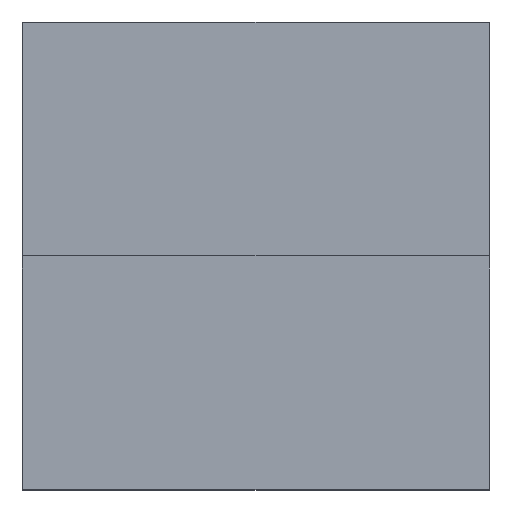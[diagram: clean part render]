
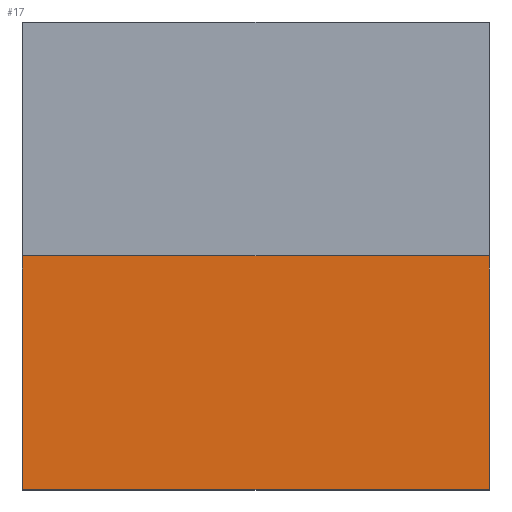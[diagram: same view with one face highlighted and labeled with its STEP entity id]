
A CAD part, top view. The second image highlights one B-rep face of the part: STEP entity #17.
In plain terms, the highlighted planar face has unit normal (0, 0, 1).
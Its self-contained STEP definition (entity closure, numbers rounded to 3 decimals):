
#17=ADVANCED_FACE('',(#55),#533,.T.);
#55=FACE_OUTER_BOUND('',#93,.T.);
#93=EDGE_LOOP('',(#141,#142,#143,#144));
#141=ORIENTED_EDGE('',*,*,#333,.T.);
#142=ORIENTED_EDGE('',*,*,#345,.T.);
#143=ORIENTED_EDGE('',*,*,#318,.T.);
#144=ORIENTED_EDGE('',*,*,#317,.T.);
#317=EDGE_CURVE('',#489,#501,#433,.T.);
#318=EDGE_CURVE('',#490,#489,#434,.T.);
#333=EDGE_CURVE('',#501,#502,#445,.T.);
#345=EDGE_CURVE('',#502,#490,#451,.T.);
#433=B_SPLINE_CURVE_WITH_KNOTS('',1,(#997,#998),.UNSPECIFIED.,.F.,.F.,(2,
2),(-1197.,-898.),.UNSPECIFIED.);
#434=B_SPLINE_CURVE_WITH_KNOTS('',1,(#999,#1000),.UNSPECIFIED.,.F.,.F.,
(2,2),(599.,1197.),.UNSPECIFIED.);
#445=B_SPLINE_CURVE_WITH_KNOTS('',1,(#1053,#1054),.UNSPECIFIED.,.F.,.F.,
(2,2),(-299.,299.),.UNSPECIFIED.);
#451=B_SPLINE_CURVE_WITH_KNOTS('',1,(#1083,#1084),.UNSPECIFIED.,.F.,.F.,
(2,2),(300.,599.),.UNSPECIFIED.);
#489=VERTEX_POINT('',#785);
#490=VERTEX_POINT('',#786);
#501=VERTEX_POINT('',#797);
#502=VERTEX_POINT('',#798);
#533=PLANE('',#591);
#591=AXIS2_PLACEMENT_3D('',#641,#610,$);
#610=DIRECTION('',(0.,0.,1.));
#641=CARTESIAN_POINT('',(-299.,-299.,29.));
#785=CARTESIAN_POINT('',(299.,-299.,29.));
#786=CARTESIAN_POINT('',(-299.,-299.,29.));
#797=CARTESIAN_POINT('',(299.,0.,29.));
#798=CARTESIAN_POINT('',(-299.,0.,29.));
#997=CARTESIAN_POINT('',(299.,-299.,29.));
#998=CARTESIAN_POINT('',(299.,0.,29.));
#999=CARTESIAN_POINT('',(-299.,-299.,29.));
#1000=CARTESIAN_POINT('',(299.,-299.,29.));
#1053=CARTESIAN_POINT('',(299.,0.,29.));
#1054=CARTESIAN_POINT('',(-299.,0.,29.));
#1083=CARTESIAN_POINT('',(-299.,0.,29.));
#1084=CARTESIAN_POINT('',(-299.,-299.,29.));
